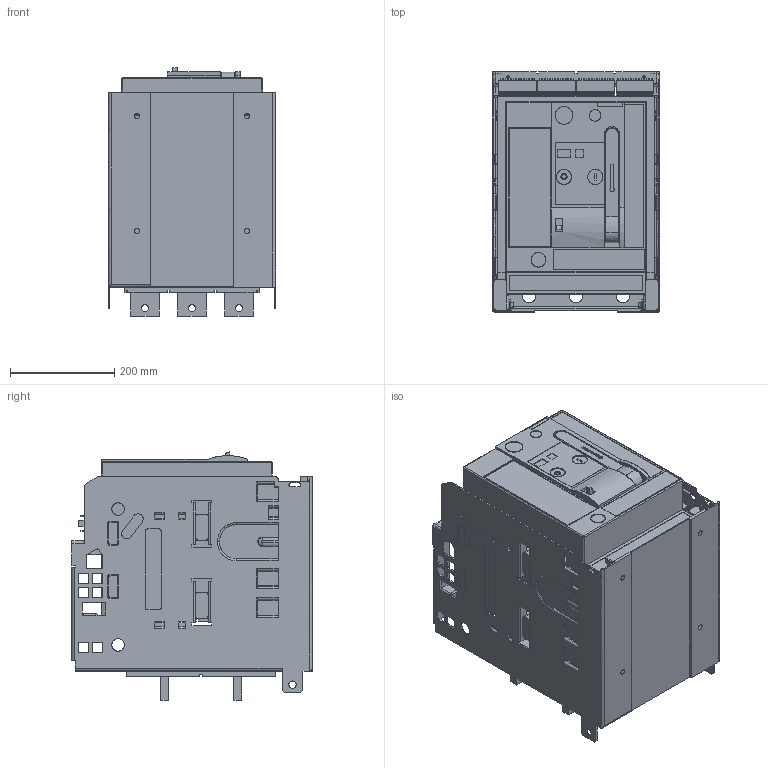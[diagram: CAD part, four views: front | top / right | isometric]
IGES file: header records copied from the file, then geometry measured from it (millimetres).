
Start section: SolidWorks IGES file using analytic representation for surfaces
Global section: file name: U:\14_RD\05_Technical_office\04_Office\Hrdinova\3D modely - IGES\Arion\ARION_WL1116-___36.IGS; native system: SolidWorks 2011; preprocessor: SolidWorks 2011; author: adhrja3; date: 170609.074307; units: millimetre
Bounding box: 320 x 460 x 474.91 mm (x, y, z)
Surface area: 2629266.8 mm2 (no closed solid volume)
Topology: 0 solids, 0 shells, 3066 faces, 26116 edges, 26110 vertices
Faces by surface type: bspline 2500, revolution 566
